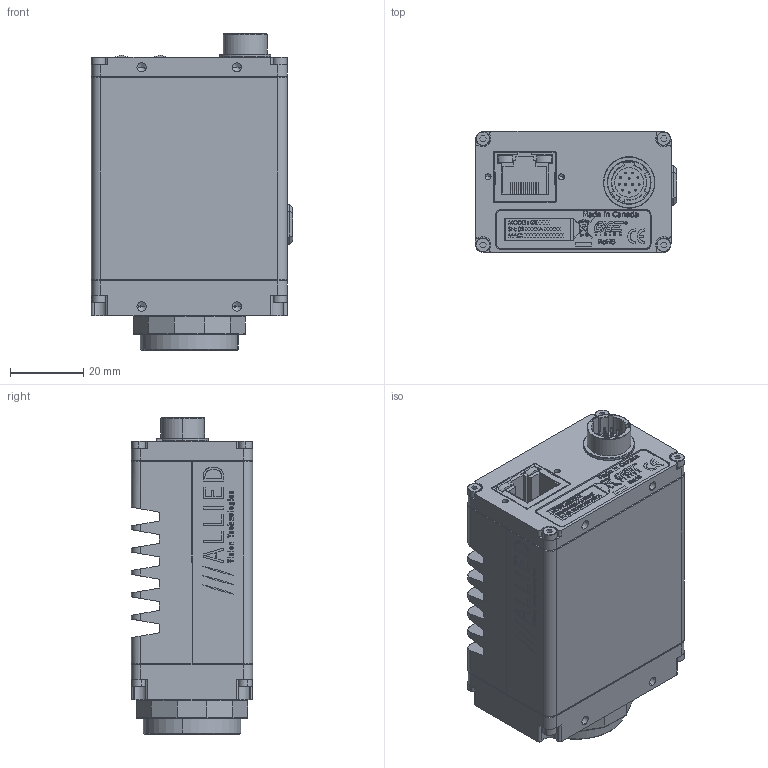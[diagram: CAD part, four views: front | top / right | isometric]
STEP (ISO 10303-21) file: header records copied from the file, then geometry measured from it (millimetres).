
FILE_DESCRIPTION (( 'STEP AP214' ), '1' );
FILE_NAME ('GT2450C CAMERAS ASSY.STEP', '2013-08-01T19:20:37', ( '' ), ( '' ), 'SwSTEP 2.0', 'SolidWorks 2013', '' );
FILE_SCHEMA (( 'AUTOMOTIVE_DESIGN' ));
Length unit declared in the file: millimetre
Products named in the file (26): GT2450C CAMERAS ASSY; 740144A-GT SERIES LABEL; 140061-SCREW SKT CAP M2x8 SS; CONN_KOBICONN_163-157J-E; CONN_AMPHENOL_RJHSE-5481; 200130B-GT CONTROL SLOW; 260034-HIROSE HR10A-10R-12PB NUT; 260034-HIROSE HR10A-10R-12PB WASHER; 260034-HIROSE HR10A-10R-12PB; 110153A-GT BACK PLATE; 100191A-GT BACK ASSY; GT BOT COVER_110158A-GT BOT COVER SHORT; GT TOP COVER_110159A-GT TOP COVER SHORT; GT BODY ASSY_100193A-GT BODY ASSY SLOW; 110054B-A IR FILTER SUPPORT; 440002-IR CUT FILTER 22MM DIA; 100097B - IR FILTER ASSEMBLY 0.75 INCH; 110031A-B EC-CCD LOCKING RING; 110157A-GT CCD GASKET SF; SONY ICX625 WINDOW; SONY ICX625 BODY; 220118-SONY ICX625AQA; 110003AC-CV CMOUNT RING; 110154A-GT FRONT PLATE SF; GT2450 FRONT ASSY_100195A-GT2450C FRONT ASSY; LABEL PRINTOUT
Assembly tree (32 placements, depth 4):
  GT2450C CAMERAS ASSY
    740144A-GT SERIES LABEL
    140061-SCREW SKT CAP M2x8 SS  x4
    GT BODY ASSY_100193A-GT BODY ASSY SLOW
      200130B-GT CONTROL SLOW
        CONN_KOBICONN_163-157J-E
        CONN_AMPHENOL_RJHSE-5481
      140061-SCREW SKT CAP M2x8 SS  x4
      100191A-GT BACK ASSY
        260034-HIROSE HR10A-10R-12PB NUT
        260034-HIROSE HR10A-10R-12PB WASHER
        260034-HIROSE HR10A-10R-12PB
        110153A-GT BACK PLATE
      GT BOT COVER_110158A-GT BOT COVER SHORT
      GT TOP COVER_110159A-GT TOP COVER SHORT
    GT2450 FRONT ASSY_100195A-GT2450C FRONT ASSY
      100097B - IR FILTER ASSEMBLY 0.75 INCH
        110054B-A IR FILTER SUPPORT
        440002-IR CUT FILTER 22MM DIA
      110031A-B EC-CCD LOCKING RING
      110157A-GT CCD GASKET SF
      220118-SONY ICX625AQA
        SONY ICX625 WINDOW
        SONY ICX625 BODY
      110003AC-CV CMOUNT RING
      110154A-GT FRONT PLATE SF
    LABEL PRINTOUT
Bounding box: 54.84 x 33.02 x 86.13 mm (x, y, z)
Volume: 63801.2 mm3; surface area: 53426.5 mm2
Topology: 42 solids, 42 shells, 3945 faces, 10384 edges, 6702 vertices
Faces by surface type: plane 2451, bspline 645, cylinder 577, cone 272
Entity records: 183493 total; most frequent: CARTESIAN_POINT 49650, ORIENTED_EDGE 19968, DIRECTION 16439, EDGE_CURVE 9984, VECTOR 7393, LINE 7393, VERTEX_POINT 6520, AXIS2_PLACEMENT_3D 4523
